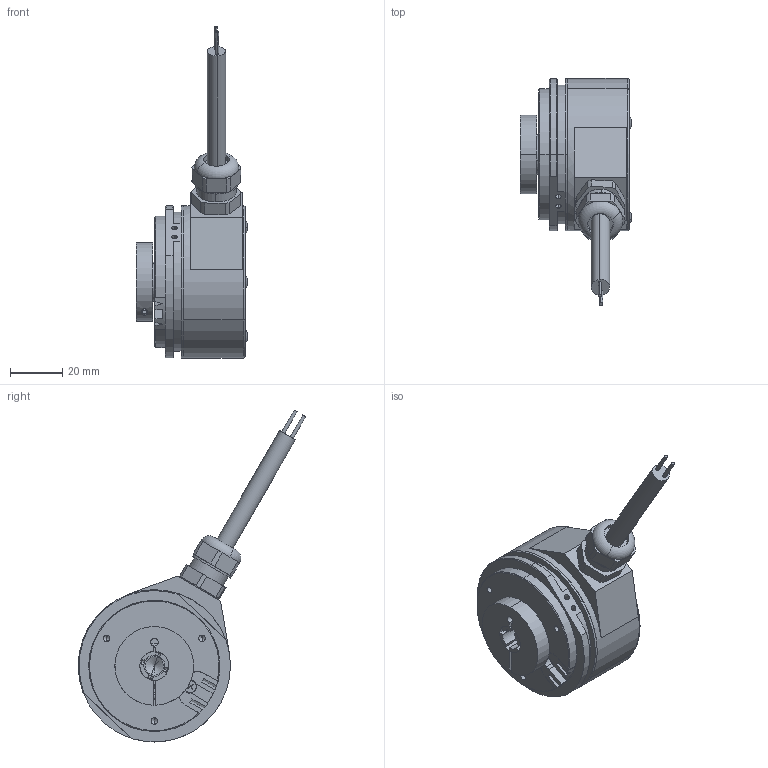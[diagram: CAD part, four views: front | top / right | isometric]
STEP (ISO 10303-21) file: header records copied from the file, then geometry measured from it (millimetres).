
FILE_DESCRIPTION (( 'STEP AP203' ), '1' );
FILE_NAME ('8.5825.24X1.XXXX.STEP', '2013-03-19T15:52:25', ( 'Hodot' ), ( '' ), 'SwSTEP 2.0', 'SolidWorks 2012', '' );
FILE_SCHEMA (( 'CONFIG_CONTROL_DESIGN' ));
Length unit declared in the file: millimetre
Products named in the file (1): 8.5825.24X1.XXXX
Bounding box: 42.38 x 86.71 x 126.51 mm (x, y, z)
Volume: 57165 mm3; surface area: 37853.3 mm2
Topology: 17 solids, 17 shells, 541 faces, 1275 edges, 782 vertices
Faces by surface type: plane 197, cylinder 188, cone 108, torus 42, sphere 6
Entity records: 15832 total; most frequent: CARTESIAN_POINT 3115, DIRECTION 2835, ORIENTED_EDGE 2490, EDGE_CURVE 1245, AXIS2_PLACEMENT_3D 1120, VERTEX_POINT 782, EDGE_LOOP 611, VECTOR 595
